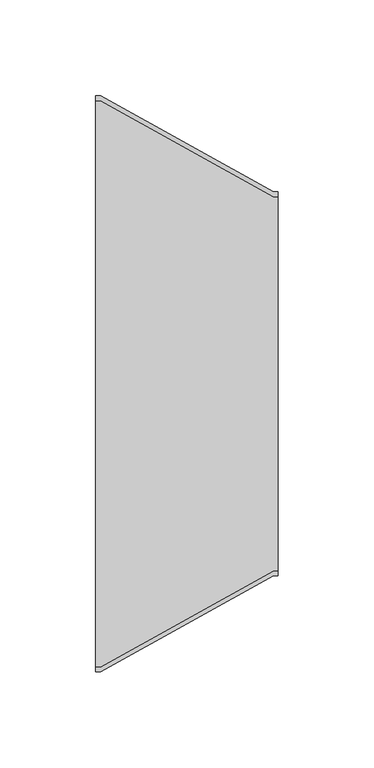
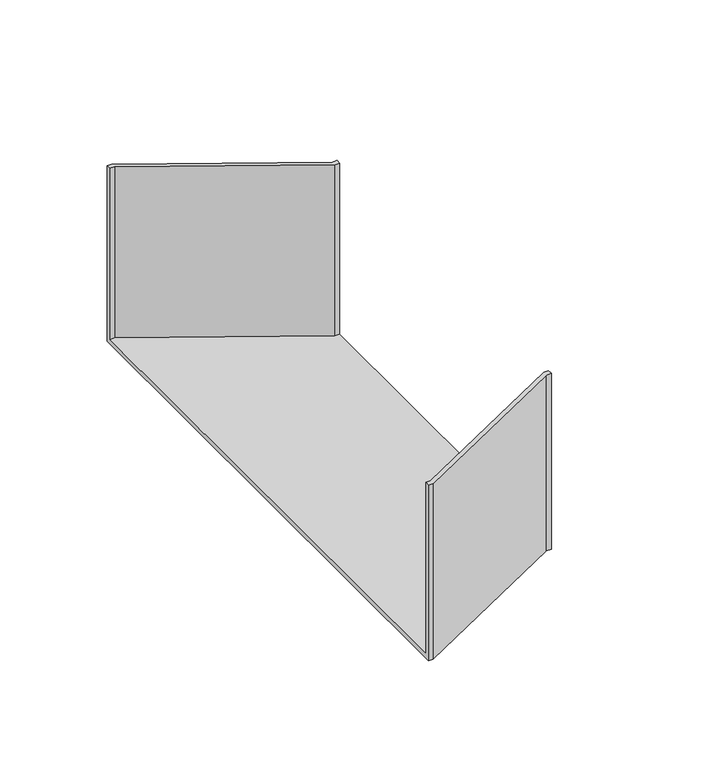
"""IFC4 building model written with IfcOpenShell, lengths in millimetres: cable carrier fitting geometry, BAKS_Reducer : RK(S/L/P)P_H100."""

import ifcopenshell
import ifcopenshell.guid

model = None  # the IFC model being written
_history = None  # IfcOwnerHistory: only IFC2X3 demands one
_inside = {}  # id of a spatial element -> (the spatial element, [elements in it])
_under = {}  # id of a project, library or spatial element -> (it, [spatial elements below it])
_declared = {}  # id of a project -> (the project, [libraries it declares])
_typed = {}  # id of a type object -> (the type object, [elements of that type])
_made_of = {}  # id of a material, layer set ... -> (it, [elements and type objects made of it])


def new_model(schema):
    """Start an empty IFC model of exactly this schema.

    Asked for "IFC4X3", IfcOpenShell would pick the latest addendum, in which some entities
    have other attributes; the version numbers below select the first issue.
    IFC2X3 requires an IfcOwnerHistory on every rooted entity: one is made here for all.
    """
    global model, _history
    if schema == "IFC4X3":
        model = ifcopenshell.file(schema_version=(4, 3, 0, 0))
    else:
        model = ifcopenshell.file(schema=schema)
    _inside.clear()
    _under.clear()
    _declared.clear()
    _typed.clear()
    _made_of.clear()
    _history = None
    if model.schema == "IFC2X3":
        org = make("IfcOrganization", Name="unknown")
        user = make(
            "IfcPersonAndOrganization",
            ThePerson=make("IfcPerson", FamilyName="unknown"),
            TheOrganization=org,
        )
        app = make(
            "IfcApplication",
            ApplicationDeveloper=org,
            Version="unknown",
            ApplicationFullName="unknown",
            ApplicationIdentifier="unknown",
        )
        _history = make(
            "IfcOwnerHistory",
            OwningUser=user,
            OwningApplication=app,
            ChangeAction="ADDED",
            CreationDate=0,
        )
    return model


def make(cls, **values):
    """One entity of the class cls with the attributes given. An attribute that is None is left unset."""
    return model.create_entity(
        cls, **{name: value for name, value in values.items() if value is not None}
    )


def rooted(cls, **values):
    """An entity with a GlobalId (a new one), such as an element, a storey or a relation."""
    return make(cls, GlobalId=ifcopenshell.guid.new(), OwnerHistory=_history, **values)


def si_unit(unit_type, name, prefix=None):
    """IfcSIUnit, for example si_unit("LENGTHUNIT", "METRE", prefix="MILLI")."""
    return make("IfcSIUnit", UnitType=unit_type, Prefix=prefix, Name=name)


def assignment(units):
    """IfcUnitAssignment: the units of a project."""
    return None if units is None else make("IfcUnitAssignment", Units=units)


def point(xyz):
    """IfcCartesianPoint."""
    return None if xyz is None else make("IfcCartesianPoint", Coordinates=xyz)


def direction(xyz):
    """IfcDirection."""
    return None if xyz is None else make("IfcDirection", DirectionRatios=xyz)


def frame(location, z_axis=None, x_axis=None):
    """IfcAxis2Placement3D, a coordinate frame: its origin and axes. An axis left out is left unset."""
    return make(
        "IfcAxis2Placement3D",
        Location=point(location),
        Axis=direction(z_axis),
        RefDirection=direction(x_axis),
    )


def origin():
    """The frame at (0, 0, 0) with its axes left unset."""
    return frame((0.0, 0.0, 0.0))


def place(relative_to, where):
    """IfcLocalPlacement: puts the frame where relative to a parent placement (None: the world)."""
    return make(
        "IfcLocalPlacement", PlacementRelTo=relative_to, RelativePlacement=where
    )


def context(
    kind, dimensions, precision=None, world=None, true_north=None, identifier=None
):
    """IfcGeometricRepresentationContext, for example the 3D "Model" context."""
    return make(
        "IfcGeometricRepresentationContext",
        ContextIdentifier=identifier,
        ContextType=kind,
        CoordinateSpaceDimension=dimensions,
        Precision=precision,
        WorldCoordinateSystem=world,
        TrueNorth=true_north,
    )


def project(units=None, contexts=None):
    """IfcProject with its units and contexts."""
    return rooted(
        "IfcProject",
        Name="project",
        RepresentationContexts=contexts,
        UnitsInContext=assignment(units),
    )


def spatial(cls, under=None, at=None, **own):
    """A site, building, storey or space (cls), placed at a placement, below another one or the project."""
    s = rooted(cls, ObjectPlacement=at, **own)
    if under is not None:
        _under.setdefault(under.id(), (under, []))[1].append(s)
    return s


def faces_of(points, faces, orient=None, outer=None):
    """IfcFace entities. A face is a list of loops; a loop is a list of indices into points, from 0.

    orient and outer hold one flag for each loop. By default every Orientation is true, the
    first loop of a face is its IfcFaceOuterBound and the others are IfcFaceBound.
    """
    made = []
    for i, loops in enumerate(faces):
        bounds = []
        for j, loop in enumerate(loops):
            is_outer = j == 0 if outer is None else outer[i][j]
            bounds.append(
                make(
                    "IfcFaceOuterBound" if is_outer else "IfcFaceBound",
                    Bound=make("IfcPolyLoop", Polygon=[points[k] for k in loop]),
                    Orientation=True if orient is None else orient[i][j],
                )
            )
        made.append(make("IfcFace", Bounds=bounds))
    return made


def faceted_brep(points, faces, orient=None, outer=None, voids=None):
    """IfcFacetedBrep: a solid bounded by flat faces; with voids (closed shells), ...WithVoids."""
    shared = [point(p) for p in points]
    hull = make("IfcClosedShell", CfsFaces=faces_of(shared, faces, orient, outer))
    if voids is None:
        return make("IfcFacetedBrep", Outer=hull)
    return make(
        "IfcFacetedBrepWithVoids",
        Outer=hull,
        Voids=[
            make(cls, CfsFaces=faces_of(shared, fs, o, b)) for cls, fs, o, b in voids
        ],
    )


def shape(context_of_items, identifier, shape_type, items):
    """IfcShapeRepresentation: the items that make up one representation, for example the "Body"."""
    return make(
        "IfcShapeRepresentation",
        ContextOfItems=context_of_items,
        RepresentationIdentifier=identifier,
        RepresentationType=shape_type,
        Items=items,
    )


def source(mapping_origin, context_of_items, identifier, shape_type, items):
    """IfcRepresentationMap: a shape defined once, which mapped items show again and again."""
    return make(
        "IfcRepresentationMap",
        MappingOrigin=mapping_origin,
        MappedRepresentation=shape(context_of_items, identifier, shape_type, items),
    )


def transform(
    local_origin,
    x_axis=None,
    y_axis=None,
    z_axis=None,
    scale=None,
    scale2=None,
    scale3=None,
    uniform=True,
):
    """IfcCartesianTransformationOperator3D, or its non-uniform kind. x_axis, y_axis, z_axis: its Axis1, 2, 3."""
    if uniform:
        return make(
            "IfcCartesianTransformationOperator3D",
            Axis1=direction(x_axis),
            Axis2=direction(y_axis),
            LocalOrigin=point(local_origin),
            Scale=scale,
            Axis3=direction(z_axis),
        )
    return make(
        "IfcCartesianTransformationOperator3DnonUniform",
        Axis1=direction(x_axis),
        Axis2=direction(y_axis),
        LocalOrigin=point(local_origin),
        Scale=scale,
        Axis3=direction(z_axis),
        Scale2=scale2,
        Scale3=scale3,
    )


def mapped(mapping_source, mapping_target):
    """IfcMappedItem: shows the shape of a source again, moved by a transform."""
    return make(
        "IfcMappedItem", MappingSource=mapping_source, MappingTarget=mapping_target
    )


def made_of(thing, what):
    """Note that an element or type object is made of a material, layer set ...; save() writes the relation."""
    if what is not None:
        _made_of.setdefault(what.id(), (what, []))[1].append(thing)
    return thing


def element(
    cls,
    number,
    at=None,
    inside=None,
    cuts=None,
    type_object=None,
    material=None,
    context=None,
    identifier="Body",
    shape_type=None,
    held_by="IfcProductDefinitionShape",
    body=None,
    shapes=None,
    **own,
):
    """One element of the class cls, such as IfcWall. Its Tag is "e" and its number.

    at: its placement. inside: the storey or other place that contains it. cuts: it is an
    opening in that element (IfcRelVoidsElement). A single representation is given by context,
    identifier, shape_type and body (its items); several are given by shapes. held_by: the class
    of the entity that holds the representations. save() writes the other relations.
    """
    e = rooted(cls, Tag="e%d" % number, ObjectPlacement=at, **own)
    if body is not None:
        shapes = [shape(context, identifier, shape_type, body)]
    if shapes is not None:
        e.Representation = make(held_by, Representations=shapes)
    if inside is not None:
        _inside.setdefault(inside.id(), (inside, []))[1].append(e)
    if cuts is not None:
        rooted(
            "IfcRelVoidsElement", RelatingBuildingElement=cuts, RelatedOpeningElement=e
        )
    if type_object is not None:
        _typed.setdefault(type_object.id(), (type_object, []))[1].append(e)
    return made_of(e, material)


def aggregate(whole, parts):
    """IfcRelAggregates: a whole, such as a stair, and the parts it consists of."""
    return rooted("IfcRelAggregates", RelatingObject=whole, RelatedObjects=parts)


def save(model, path):
    """Write the relations noted so far, then the file.

    IfcRelAggregates (storeys below a building ...), IfcRelContainedInSpatialStructure (elements
    in a storey), IfcRelDefinesByType, IfcRelAssociatesMaterial and IfcRelDeclares: one each for
    every whole, place, type object, material and project.
    """
    for whole, parts in _under.values():
        aggregate(whole, parts)
    for where, things in _inside.values():
        rooted(
            "IfcRelContainedInSpatialStructure",
            RelatedElements=things,
            RelatingStructure=where,
        )
    for kind, things in _typed.values():
        rooted("IfcRelDefinesByType", RelatedObjects=things, RelatingType=kind)
    for what, things in _made_of.values():
        rooted("IfcRelAssociatesMaterial", RelatedObjects=things, RelatingMaterial=what)
    for by, libraries in _declared.values():
        rooted("IfcRelDeclares", RelatingContext=by, RelatedDefinitions=libraries)
    model.write(path)


def cable_carrier_fitting_b014db50(model_context):
    return source(origin(), model_context, "Body", "Brep", [
        faceted_brep([(0.0, -150.0, -50.0), (0.0, -150.0, 50.0), (0.0, -147.46, 50.0), (0.0, -147.46, -47.46), (0.0, 147.46, -47.46), (0.0, 147.46, 50.0), (0.0, 150.0, 50.0), (0.0, 150.0, -50.0), (95.0, -100.0, -50.0), (95.0, 100.0, -50.0), (95.0, 100.0, 50.0), (95.0, 97.46, 50.0), (95.0, 97.46, -47.46), (95.0, -97.46, -47.46), (95.0, -97.46, 50.0), (95.0, -100.0, 50.0), (2.5, -150.0, -50.0), (2.5, -150.0, 50.0), (92.5, -100.0, 50.0), (92.5, -97.46, 50.0), (2.5, -147.46, 50.0), (2.5, -147.46, -47.46), (92.5, -97.46, -47.46), (92.5, 97.46, -47.46), (2.5, 147.46, -47.46), (2.5, 147.46, 50.0), (92.5, 97.46, 50.0), (92.5, 100.0, 50.0), (2.5, 150.0, 50.0), (2.5, 150.0, -50.0), (92.5, 100.0, -50.0), (92.5, -100.0, -50.0)], [[[0, 1, 2, 3, 4, 5, 6, 7]], [[8, 9, 10, 11, 12, 13, 14, 15]], [[1, 0, 16, 17]], [[2, 1, 17, 18, 15, 14, 19, 20]], [[3, 2, 20, 21]], [[4, 3, 21, 22, 13, 12, 23, 24]], [[5, 4, 24, 25]], [[6, 5, 25, 26, 11, 10, 27, 28]], [[7, 6, 28, 29]], [[0, 7, 29, 30, 9, 8, 31, 16]], [[12, 11, 26, 23]], [[10, 9, 30, 27]], [[30, 29, 28, 27]], [[26, 25, 24, 23]], [[8, 15, 18, 31]], [[14, 13, 22, 19]], [[22, 21, 20, 19]], [[16, 31, 18, 17]]]),
    ])


if __name__ == "__main__":
    model = new_model("IFC4")
    model_context = context("Model", 3, world=origin())
    ifc_project = project(units=[si_unit("LENGTHUNIT", "METRE", prefix="MILLI")], contexts=[model_context])
    site = spatial("IfcSite", under=ifc_project)
    building = spatial("IfcBuilding", under=site)
    placement = place(None, origin())
    cable_carrier_fitting_shape = cable_carrier_fitting_b014db50(model_context)
    element("IfcCableCarrierFitting", 1, ObjectType="BAKS_Reducer : RK(S/L/P)P_H100", at=placement, inside=building, context=model_context, shape_type="MappedRepresentation", body=[
        mapped(cable_carrier_fitting_shape, transform((0.0, 0.0, 0.0), x_axis=(1.0, 0.0, 0.0), y_axis=(0.0, 1.0, 0.0), z_axis=(0.0, 0.0, 1.0))),
    ])
    save(model, "model.ifc")
